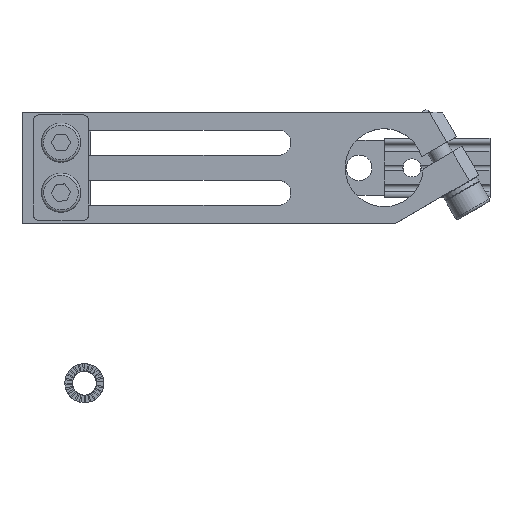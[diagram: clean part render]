
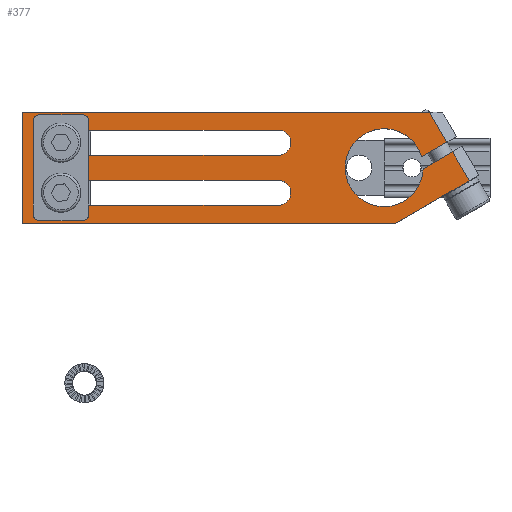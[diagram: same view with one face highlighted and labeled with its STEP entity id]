
A CAD part, top view. The second image highlights one B-rep face of the part: STEP entity #377.
In plain terms, the highlighted planar face has unit normal (0, 0, 1).
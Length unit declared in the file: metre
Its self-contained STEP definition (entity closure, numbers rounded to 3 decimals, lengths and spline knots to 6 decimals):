
#377 = ADVANCED_FACE( '', ( #786, #787, #788 ), #789, .F. );
#786 = FACE_BOUND( '', #1440, .T. );
#787 = FACE_BOUND( '', #1441, .T. );
#788 = FACE_OUTER_BOUND( '', #1442, .T. );
#789 = PLANE( '', #1443 );
#1440 = EDGE_LOOP( '', ( #2148, #2149, #2150, #2151 ) );
#1441 = EDGE_LOOP( '', ( #2152, #2153, #2154, #2155 ) );
#1442 = EDGE_LOOP( '', ( #2156, #2157, #2158, #2159, #2160, #2161, #2162, #2163, #2164 ) );
#1443 = AXIS2_PLACEMENT_3D( '', #2165, #2166, #2167 );
#2148 = ORIENTED_EDGE( '', *, *, #4690, .F. );
#2149 = ORIENTED_EDGE( '', *, *, #4691, .F. );
#2150 = ORIENTED_EDGE( '', *, *, #4692, .F. );
#2151 = ORIENTED_EDGE( '', *, *, #4693, .F. );
#2152 = ORIENTED_EDGE( '', *, *, #4694, .F. );
#2153 = ORIENTED_EDGE( '', *, *, #4695, .F. );
#2154 = ORIENTED_EDGE( '', *, *, #4696, .F. );
#2155 = ORIENTED_EDGE( '', *, *, #4697, .F. );
#2156 = ORIENTED_EDGE( '', *, *, #4698, .T. );
#2157 = ORIENTED_EDGE( '', *, *, #4699, .T. );
#2158 = ORIENTED_EDGE( '', *, *, #4700, .F. );
#2159 = ORIENTED_EDGE( '', *, *, #4701, .F. );
#2160 = ORIENTED_EDGE( '', *, *, #4702, .F. );
#2161 = ORIENTED_EDGE( '', *, *, #4669, .T. );
#2162 = ORIENTED_EDGE( '', *, *, #4683, .F. );
#2163 = ORIENTED_EDGE( '', *, *, #4689, .F. );
#2164 = ORIENTED_EDGE( '', *, *, #4703, .F. );
#2165 = CARTESIAN_POINT( '', ( -0.065, 0.01, 0.01 ) );
#2166 = DIRECTION( '', ( 0., 0., -1. ) );
#2167 = DIRECTION( '', ( -1., 0., 0. ) );
#4669 = EDGE_CURVE( '', #5518, #5520, #5522, .T. );
#4683 = EDGE_CURVE( '', #5547, #5520, #5549, .T. );
#4689 = EDGE_CURVE( '', #5557, #5547, #5559, .T. );
#4690 = EDGE_CURVE( '', #5560, #5561, #5562, .T. );
#4691 = EDGE_CURVE( '', #5563, #5560, #5564, .T. );
#4692 = EDGE_CURVE( '', #5565, #5563, #5566, .T. );
#4693 = EDGE_CURVE( '', #5561, #5565, #5567, .T. );
#4694 = EDGE_CURVE( '', #5568, #5569, #5570, .T. );
#4695 = EDGE_CURVE( '', #5571, #5568, #5572, .T. );
#4696 = EDGE_CURVE( '', #5573, #5571, #5574, .T. );
#4697 = EDGE_CURVE( '', #5569, #5573, #5575, .T. );
#4698 = EDGE_CURVE( '', #5576, #5577, #5578, .T. );
#4699 = EDGE_CURVE( '', #5577, #5579, #5580, .T. );
#4700 = EDGE_CURVE( '', #5581, #5579, #5582, .T. );
#4701 = EDGE_CURVE( '', #5583, #5581, #5584, .F. );
#4702 = EDGE_CURVE( '', #5518, #5583, #5585, .T. );
#4703 = EDGE_CURVE( '', #5576, #5557, #5586, .T. );
#5518 = VERTEX_POINT( '', #6876 );
#5520 = VERTEX_POINT( '', #6879 );
#5522 = LINE( '', #6882, #6883 );
#5547 = VERTEX_POINT( '', #6916 );
#5549 = LINE( '', #6919, #6920 );
#5557 = VERTEX_POINT( '', #6931 );
#5559 = LINE( '', #6934, #6935 );
#5560 = VERTEX_POINT( '', #6936 );
#5561 = VERTEX_POINT( '', #6937 );
#5562 = LINE( '', #6938, #6939 );
#5563 = VERTEX_POINT( '', #6940 );
#5564 = CIRCLE( '', #6941, 0.00225 );
#5565 = VERTEX_POINT( '', #6942 );
#5566 = LINE( '', #6943, #6944 );
#5567 = CIRCLE( '', #6945, 0.00225 );
#5568 = VERTEX_POINT( '', #6946 );
#5569 = VERTEX_POINT( '', #6947 );
#5570 = LINE( '', #6948, #6949 );
#5571 = VERTEX_POINT( '', #6950 );
#5572 = CIRCLE( '', #6951, 0.00225 );
#5573 = VERTEX_POINT( '', #6952 );
#5574 = LINE( '', #6953, #6954 );
#5575 = CIRCLE( '', #6955, 0.00225 );
#5576 = VERTEX_POINT( '', #6956 );
#5577 = VERTEX_POINT( '', #6957 );
#5578 = LINE( '', #6958, #6959 );
#5579 = VERTEX_POINT( '', #6960 );
#5580 = LINE( '', #6961, #6962 );
#5581 = VERTEX_POINT( '', #6963 );
#5582 = LINE( '', #6964, #6965 );
#5583 = VERTEX_POINT( '', #6966 );
#5584 = CIRCLE( '', #6967, 0.007 );
#5585 = LINE( '', #6968, #6969 );
#5586 = LINE( '', #6970, #6971 );
#6876 = CARTESIAN_POINT( '', ( 0.011268, 0.004588, 0.01 ) );
#6879 = CARTESIAN_POINT( '', ( 0.008144, 0.01, 0.01 ) );
#6882 = CARTESIAN_POINT( '', ( -0.010142, 0.041672, 0.01 ) );
#6883 = VECTOR( '', #8840, 1. );
#6916 = CARTESIAN_POINT( '', ( -0.065, 0.01, 0.01 ) );
#6919 = CARTESIAN_POINT( '', ( -0.065, 0.01, 0.01 ) );
#6920 = VECTOR( '', #8862, 1. );
#6931 = CARTESIAN_POINT( '', ( -0.065, -0.01, 0.01 ) );
#6934 = CARTESIAN_POINT( '', ( -0.065, -0.01, 0.01 ) );
#6935 = VECTOR( '', #8870, 1. );
#6936 = CARTESIAN_POINT( '', ( -0.019, 0.00675, 0.01 ) );
#6937 = CARTESIAN_POINT( '', ( -0.059, 0.00675, 0.01 ) );
#6938 = CARTESIAN_POINT( '', ( -0.019, 0.00675, 0.01 ) );
#6939 = VECTOR( '', #8871, 1. );
#6940 = CARTESIAN_POINT( '', ( -0.019, 0.00225, 0.01 ) );
#6941 = AXIS2_PLACEMENT_3D( '', #8872, #8873, #8874 );
#6942 = CARTESIAN_POINT( '', ( -0.059, 0.00225, 0.01 ) );
#6943 = CARTESIAN_POINT( '', ( -0.019, 0.00225, 0.01 ) );
#6944 = VECTOR( '', #8875, 1. );
#6945 = AXIS2_PLACEMENT_3D( '', #8876, #8877, #8878 );
#6946 = CARTESIAN_POINT( '', ( -0.019, -0.00225, 0.01 ) );
#6947 = CARTESIAN_POINT( '', ( -0.059, -0.00225, 0.01 ) );
#6948 = CARTESIAN_POINT( '', ( -0.019, -0.00225, 0.01 ) );
#6949 = VECTOR( '', #8879, 1. );
#6950 = CARTESIAN_POINT( '', ( -0.019, -0.00675, 0.01 ) );
#6951 = AXIS2_PLACEMENT_3D( '', #8880, #8881, #8882 );
#6952 = CARTESIAN_POINT( '', ( -0.059, -0.00675, 0.01 ) );
#6953 = CARTESIAN_POINT( '', ( -0.019, -0.00675, 0.01 ) );
#6954 = VECTOR( '', #8883, 1. );
#6955 = AXIS2_PLACEMENT_3D( '', #8884, #8885, #8886 );
#6956 = CARTESIAN_POINT( '', ( 0.002, -0.01, 0.01 ) );
#6957 = CARTESIAN_POINT( '', ( 0.015268, -0.00234, 0.01 ) );
#6958 = CARTESIAN_POINT( '', ( -0.03959, -0.034012, 0.01 ) );
#6959 = VECTOR( '', #8887, 1. );
#6960 = CARTESIAN_POINT( '', ( 0.012268, 0.002856, 0.01 ) );
#6961 = CARTESIAN_POINT( '', ( -0.010142, 0.041672, 0.01 ) );
#6962 = VECTOR( '', #8888, 1. );
#6963 = CARTESIAN_POINT( '', ( 0.006998, -0.000186, 0.01 ) );
#6964 = CARTESIAN_POINT( '', ( 0.00101, -0.003644, 0.01 ) );
#6965 = VECTOR( '', #8889, 1. );
#6966 = CARTESIAN_POINT( '', ( 0.006719, 0.001962, 0.01 ) );
#6967 = AXIS2_PLACEMENT_3D( '', #8890, #8891, #8892 );
#6968 = CARTESIAN_POINT( '', ( 0.013, 0.005588, 0.01 ) );
#6969 = VECTOR( '', #8893, 1. );
#6970 = CARTESIAN_POINT( '', ( 0.017, -0.01, 0.01 ) );
#6971 = VECTOR( '', #8894, 1. );
#8840 = DIRECTION( '', ( -0.5, 0.866, 0. ) );
#8862 = DIRECTION( '', ( 1., 0., 0. ) );
#8870 = DIRECTION( '', ( 0., 1., 0. ) );
#8871 = DIRECTION( '', ( -1., 0., 0. ) );
#8872 = CARTESIAN_POINT( '', ( -0.019, 0.0045, 0.01 ) );
#8873 = DIRECTION( '', ( 0., 0., 1. ) );
#8874 = DIRECTION( '', ( 0., -1., 0. ) );
#8875 = DIRECTION( '', ( 1., 0., 0. ) );
#8876 = CARTESIAN_POINT( '', ( -0.059, 0.0045, 0.01 ) );
#8877 = DIRECTION( '', ( 0., 0., 1. ) );
#8878 = DIRECTION( '', ( 0., 1., 0. ) );
#8879 = DIRECTION( '', ( -1., 0., 0. ) );
#8880 = CARTESIAN_POINT( '', ( -0.019, -0.0045, 0.01 ) );
#8881 = DIRECTION( '', ( 0., 0., 1. ) );
#8882 = DIRECTION( '', ( 0., -1., 0. ) );
#8883 = DIRECTION( '', ( 1., 0., 0. ) );
#8884 = CARTESIAN_POINT( '', ( -0.059, -0.0045, 0.01 ) );
#8885 = DIRECTION( '', ( 0., 0., 1. ) );
#8886 = DIRECTION( '', ( 0., 1., 0. ) );
#8887 = DIRECTION( '', ( 0.866, 0.5, 0. ) );
#8888 = DIRECTION( '', ( -0.5, 0.866, 0. ) );
#8889 = DIRECTION( '', ( 0.866, 0.5, 0. ) );
#8890 = CARTESIAN_POINT( '', ( 0., 0., 0.01 ) );
#8891 = DIRECTION( '', ( 0., 0., -1. ) );
#8892 = DIRECTION( '', ( -1., 0., 0. ) );
#8893 = DIRECTION( '', ( -0.866, -0.5, 0. ) );
#8894 = DIRECTION( '', ( -1., 0., 0. ) );
